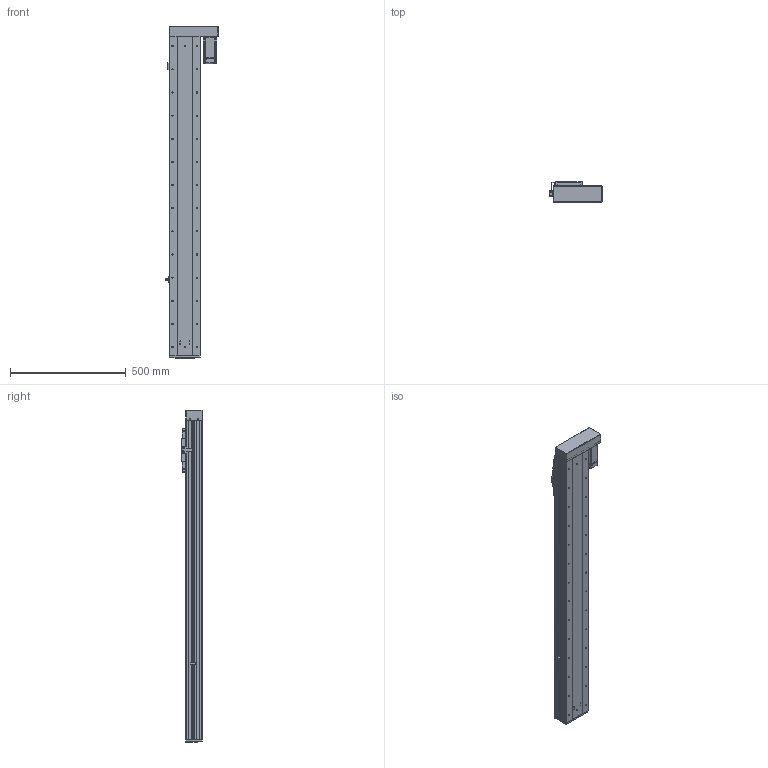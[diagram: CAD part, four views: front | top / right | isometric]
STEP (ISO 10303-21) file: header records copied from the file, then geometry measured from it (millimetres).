
FILE_DESCRIPTION (( 'STEP AP203' ), '1' );
FILE_NAME ('RY140F-L2020-300-RK.SLDASM_1100.step', '2021-03-02T08:50:57', ( '盈信电脑' ), ( '东莞市道滘镇水果街19号' ), 'SwSTEP 2.0', 'SolidWorks 2012', '' );
FILE_SCHEMA (( 'CONFIG_CONTROL_DESIGN' ));
Length unit declared in the file: millimetre
Products named in the file (19): RY140F-左右折电机安装板(400W M5); RY140F-酘衵殏萇儂欶(400W); RY140F-转折折电机座（7001）; RY140F-L2020-300-RK.SLDASM_1100; 侐源滅袉蝶; RY140F-詩湍揤え; 覜茼ん672; RY140F-672覜茼んえ; RY140F-后盖板(铝件）; 15; 侂狟400W侜督萇儂; RY140F-滅鳥奻裔; RY100F-詩湍揤踡謫; RY140F-直连型材铝滑块(16丝杆); RY140F-詩湍幗謫粣; RY140F-300-RK蛌殏詩湍_1100; RY140F-300-RK倰第菁釱_1100; RY140F-直连型材铝滑块连接座; RY140F-300-RK倰第奻裔啣_1100
Assembly tree (23 placements, depth 3):
  RY140F-L2020-300-RK.SLDASM_1100
    RY140F-300-RK倰第菁釱_1100
    RY140F-300-RK倰第奻裔啣_1100  x2
    RY140F-300-RK蛌殏詩湍_1100
    RY140F-直连型材铝滑块连接座
    RY140F-滅鳥奻裔
    RY140F-詩湍幗謫粣
    RY100F-詩湍揤踡謫
    RY140F-直连型材铝滑块(16丝杆)
    RY140F-后盖板(铝件）
    侂狟400W侜督萇儂
      15
    覜茼ん672
    RY140F-672覜茼んえ
    RY140F-詩湍揤え  x2
    侐源滅袉蝶  x4
    RY140F-转折折电机座（7001）
    RY140F-左右折电机安装板(400W M5)
    RY140F-酘衵殏萇儂欶(400W)
Bounding box: 224.7 x 91 x 1434 mm (x, y, z)
Volume: 5270091.1 mm3; surface area: 1889840.4 mm2
Topology: 22 solids, 22 shells, 2117 faces, 5765 edges, 3638 vertices
Faces by surface type: cylinder 1040, plane 789, cone 258, bspline 26, torus 4
Entity records: 66587 total; most frequent: CARTESIAN_POINT 13967, DIRECTION 10742, ORIENTED_EDGE 10354, EDGE_CURVE 5177, AXIS2_PLACEMENT_3D 3877, VERTEX_POINT 3378, LINE 2988, VECTOR 2988
